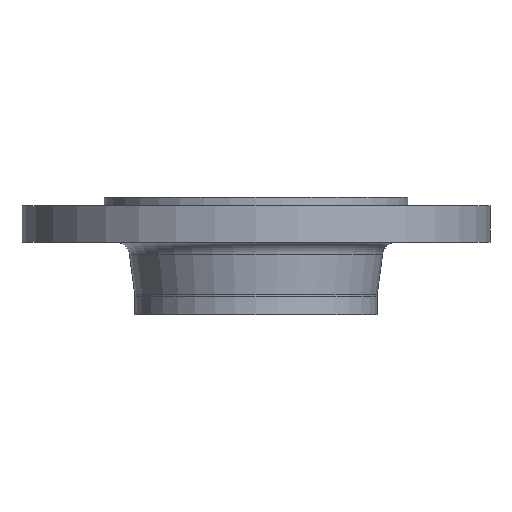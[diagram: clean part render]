
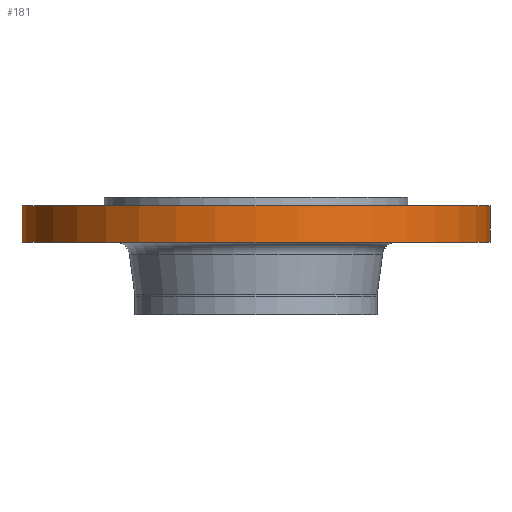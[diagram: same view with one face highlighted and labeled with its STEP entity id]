
A CAD part, front view. The second image highlights one B-rep face of the part: STEP entity #181.
In plain terms, the highlighted cylindrical face has radius 135 mm (diameter 270 mm), a partial arc.
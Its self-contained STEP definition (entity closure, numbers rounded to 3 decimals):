
#82 = EDGE_CURVE ( 'NONE', #250, #703, #318, .T. ) ;
#110 = CARTESIAN_POINT ( 'NONE',  ( 0., 0., -78. ) ) ;
#112 = VECTOR ( 'NONE', #531, 1000. ) ;
#117 = CARTESIAN_POINT ( 'NONE',  ( 135., 0., -5. ) ) ;
#142 = DIRECTION ( 'NONE',  ( -1., 0., 0. ) ) ;
#159 = CARTESIAN_POINT ( 'NONE',  ( -135., 0., -26. ) ) ;
#170 = CIRCLE ( 'NONE', #824, 135. ) ;
#179 = CARTESIAN_POINT ( 'NONE',  ( -135., 0., -78. ) ) ;
#181 = ADVANCED_FACE ( 'NONE', ( #558 ), #932, .T. ) ;
#216 = DIRECTION ( 'NONE',  ( -1., 0., 0. ) ) ;
#229 = ORIENTED_EDGE ( 'NONE', *, *, #1024, .T. ) ;
#250 = VERTEX_POINT ( 'NONE', #667 ) ;
#318 = CIRCLE ( 'NONE', #830, 135. ) ;
#365 = CARTESIAN_POINT ( 'NONE',  ( 135., 0., -78. ) ) ;
#467 = DIRECTION ( 'NONE',  ( 0., 0., 1. ) ) ;
#481 = CARTESIAN_POINT ( 'NONE',  ( -135., 0., -5. ) ) ;
#501 = VECTOR ( 'NONE', #730, 1000. ) ;
#529 = EDGE_CURVE ( 'NONE', #703, #806, #1001, .T. ) ;
#531 = DIRECTION ( 'NONE',  ( 0., 0., 1. ) ) ;
#558 = FACE_OUTER_BOUND ( 'NONE', #591, .T. ) ;
#585 = CARTESIAN_POINT ( 'NONE',  ( 0., 0., -26. ) ) ;
#591 = EDGE_LOOP ( 'NONE', ( #746, #1180, #229, #768 ) ) ;
#634 = EDGE_CURVE ( 'NONE', #752, #806, #170, .T. ) ;
#665 = CARTESIAN_POINT ( 'NONE',  ( 0., 0., -5. ) ) ;
#667 = CARTESIAN_POINT ( 'NONE',  ( 135., 0., -26. ) ) ;
#703 = VERTEX_POINT ( 'NONE', #159 ) ;
#730 = DIRECTION ( 'NONE',  ( 0., 0., 1. ) ) ;
#746 = ORIENTED_EDGE ( 'NONE', *, *, #529, .F. ) ;
#752 = VERTEX_POINT ( 'NONE', #117 ) ;
#768 = ORIENTED_EDGE ( 'NONE', *, *, #634, .T. ) ;
#806 = VERTEX_POINT ( 'NONE', #481 ) ;
#824 = AXIS2_PLACEMENT_3D ( 'NONE', #665, #1048, #216 ) ;
#830 = AXIS2_PLACEMENT_3D ( 'NONE', #585, #961, #142 ) ;
#845 = DIRECTION ( 'NONE',  ( 1., 0., 0. ) ) ;
#932 = CYLINDRICAL_SURFACE ( 'NONE', #1078, 135. ) ;
#961 = DIRECTION ( 'NONE',  ( 0., 0., -1. ) ) ;
#1001 = LINE ( 'NONE', #179, #112 ) ;
#1024 = EDGE_CURVE ( 'NONE', #250, #752, #1199, .T. ) ;
#1048 = DIRECTION ( 'NONE',  ( 0., 0., -1. ) ) ;
#1078 = AXIS2_PLACEMENT_3D ( 'NONE', #110, #467, #845 ) ;
#1180 = ORIENTED_EDGE ( 'NONE', *, *, #82, .F. ) ;
#1199 = LINE ( 'NONE', #365, #501 ) ;
